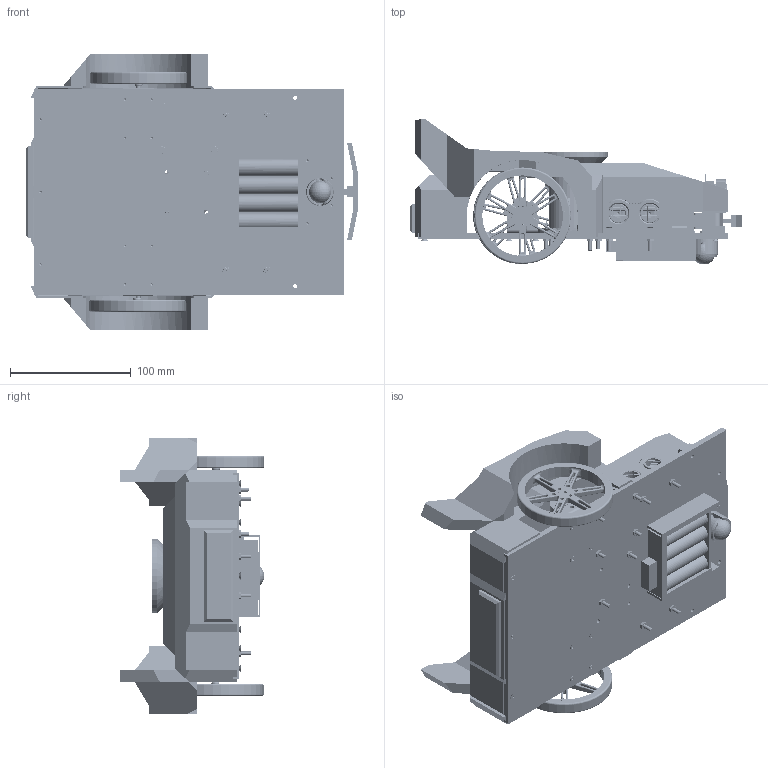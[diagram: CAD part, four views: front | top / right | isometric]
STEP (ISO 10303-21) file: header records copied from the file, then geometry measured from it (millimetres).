
FILE_DESCRIPTION(('Open CASCADE Model'),'2;1');
FILE_NAME('Open CASCADE Shape Model','2026-11-24T13:20:34',('Author'),( 'Open CASCADE'),'Open CASCADE STEP processor 7.9','Open CASCADE 7.9' ,'Unknown');
FILE_SCHEMA(('AUTOMOTIVE_DESIGN { 1 0 10303 214 1 1 1 1 }'));
Length unit declared in the file: millimetre
Products named in the file (72): BATMOBILE-V2_ASM; GRUNDPLATTE; SOLID; COMPOUND; SCHRAUBE_DIN_7991-M3X20-8_8; SCHRAUBE_DIN_7991-M3X30-8_8; MUTTER; SHELL; SWITCH_1115_2101_ASM; SWITCH_1115_2101_01; SWITCH_1115_2101_02; ECHO_HALTERUNG; ECHO-HALTERUNGL; ECHO-LUR-HALTERUNG; ECHOR; PODEST_V2; MDD3A_ASM; PCB_COMPONENT_ASM; SOIC-08N; SOT-23-6; R1608; SOT-23; ECAP-CHEMICON-F_ASM; IMPORTED3; BOSS-EXTRUDE1; IMPORTED1; IMPORTED4; C1608; D-SOD-123; C2012; LED-1608; SW-PB-KAN3246; D-SMA; BOARD; TERMINAL-KF127-2P_BLACK; CD54; C3216; S-HDR-M1X06_ASM; S-HDR-M1X06-PIN-3-SOLID1; S-HDR-M1X06-PIN-6-SOLID1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
Assembly tree (188 placements, depth 5):
  BATMOBILE-V2_ASM
    GRUNDPLATTE
      SOLID
      COMPOUND
    SCHRAUBE_DIN_7991-M3X20-8_8  x6
    SCHRAUBE_DIN_7991-M3X30-8_8  x2
    MUTTER  x22
      SOLID
      SHELL
      COMPOUND
    SWITCH_1115_2101_ASM
      SWITCH_1115_2101_01
      SWITCH_1115_2101_02
    ECHO_HALTERUNG
    ECHO-HALTERUNGL
    ECHO-LUR-HALTERUNG
    ECHOR  x3
    PODEST_V2
      SOLID
      COMPOUND
      COMPOUND
    MDD3A_ASM
      PCB_COMPONENT_ASM
        SOIC-08N  x4
        SOT-23-6
        R1608  x37
        SOT-23  x18
        ECAP-CHEMICON-F_ASM
          IMPORTED3
          BOSS-EXTRUDE1
          IMPORTED1
          IMPORTED4
        C1608
        D-SOD-123  x4
        C2012
        LED-1608  x5
        SW-PB-KAN3246  x4
        D-SMA
        BOARD
        TERMINAL-KF127-2P_BLACK  x2
        CD54  x2
        C3216
        S-HDR-M1X06_ASM
          S-HDR-M1X06-PIN-3-SOLID1
          S-HDR-M1X06-PIN-6-SOLID1
          HEADERPIN_HOLDER-5-SOLID1
          S-HDR-M1X06-PIN-5-SOLID1
          HEADERPIN_HOLDER-1-SOLID1
          HEADERPIN_HOLDER-3-SOLID1
          S-HDR-M1X06-PIN-2-SOLID1
          HEADERPIN_HOLDER-4-SOLID1
          HEADERPIN_HOLDER-2-SOLID1
          S-HDR-M1X06-PIN-1-SOLID1
          S-HDR-M1X06-PIN-4-SOLID1
          HEADERPIN_HOLDER-6-SOLID1
        TERMINAL-KF127-2P_GREEN
    POLOLU-25D-MM-METAL-GEARMOTOR-B  x2
    JGA25-370_-_JGA25-370  x2
    POLOLU-WHEEL-80X10MM-BLACK  x2
    AKKURAHM
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Bounding box: 274.96 x 119.94 x 228 mm (x, y, z)
Volume: 674419.8 mm3; surface area: 440048.3 mm2
Topology: 167 solids, 214 shells, 29326 faces, 82907 edges, 49603 vertices
Faces by surface type: cylinder 14435, plane 11004, cone 2050, extrusion 693, bspline 504, torus 460, sphere 160, revolution 20
Full cylindrical faces by diameter (mm): 3.4 x4
Entity records: 898424 total; most frequent: CARTESIAN_POINT 319412, DIRECTION 84886, ORIENTED_EDGE 60282, PCURVE 60282, DEFINITIONAL_REPRESENTATION 60282, VECTOR 52924, LINE 52660, EDGE_CURVE 30154
